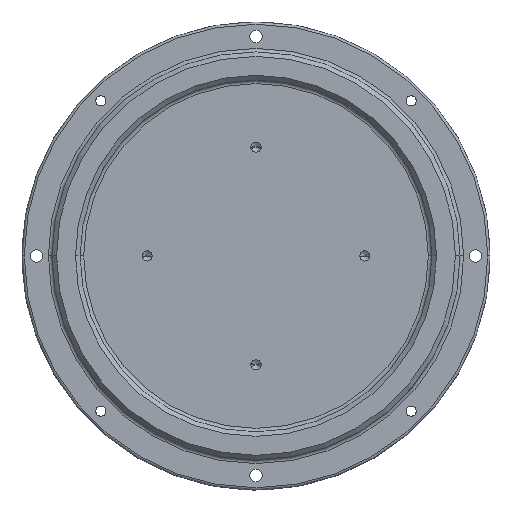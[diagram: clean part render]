
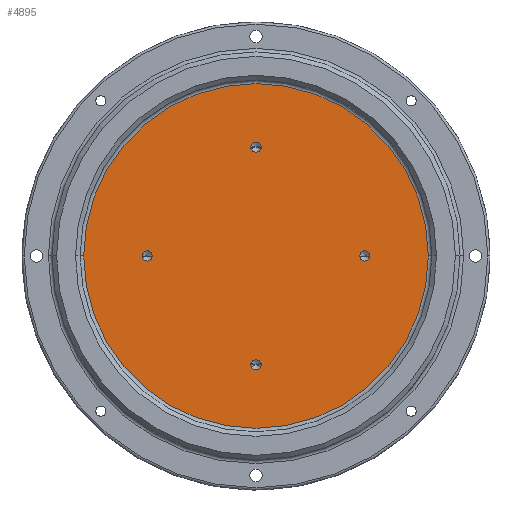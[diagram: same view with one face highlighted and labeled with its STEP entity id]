
A CAD part, top view. The second image highlights one B-rep face of the part: STEP entity #4895.
In plain terms, the highlighted planar face has unit normal (0, 0, 1).
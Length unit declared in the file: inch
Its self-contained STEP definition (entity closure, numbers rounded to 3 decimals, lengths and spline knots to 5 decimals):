
#93 = DIRECTION ( 'NONE',  ( 0., 0., 1. ) ) ;
#242 = VERTEX_POINT ( 'NONE', #6892 ) ;
#282 = CARTESIAN_POINT ( 'NONE',  ( 0., 0., 0.65 ) ) ;
#344 = CARTESIAN_POINT ( 'NONE',  ( 0.07025, -1.5, 0.65 ) ) ;
#438 = FACE_OUTER_BOUND ( 'NONE', #7875, .T. ) ;
#530 = ORIENTED_EDGE ( 'NONE', *, *, #2406, .F. ) ;
#536 = PLANE ( 'NONE',  #8569 ) ;
#667 = ORIENTED_EDGE ( 'NONE', *, *, #4321, .F. ) ;
#829 = CIRCLE ( 'NONE', #6559, 0.07025 ) ;
#891 = EDGE_LOOP ( 'NONE', ( #7507, #7856 ) ) ;
#897 = CARTESIAN_POINT ( 'NONE',  ( -1.5, 0., 0.65 ) ) ;
#899 = DIRECTION ( 'NONE',  ( 0., 0., 1. ) ) ;
#1058 = VERTEX_POINT ( 'NONE', #9163 ) ;
#1206 = EDGE_LOOP ( 'NONE', ( #4650, #530 ) ) ;
#1280 = DIRECTION ( 'NONE',  ( 1., 0., 0. ) ) ;
#1366 = VERTEX_POINT ( 'NONE', #1526 ) ;
#1526 = CARTESIAN_POINT ( 'NONE',  ( 1.57025, 0., 0.65 ) ) ;
#1801 = DIRECTION ( 'NONE',  ( 0., 0., 1. ) ) ;
#1803 = AXIS2_PLACEMENT_3D ( 'NONE', #5071, #4928, #8145 ) ;
#1813 = DIRECTION ( 'NONE',  ( 1., 0., 0. ) ) ;
#2073 = VERTEX_POINT ( 'NONE', #5622 ) ;
#2097 = CARTESIAN_POINT ( 'NONE',  ( 0.07025, 1.5, 0.65 ) ) ;
#2406 = EDGE_CURVE ( 'NONE', #242, #4350, #6454, .T. ) ;
#2461 = AXIS2_PLACEMENT_3D ( 'NONE', #5869, #4235, #8075 ) ;
#2518 = CIRCLE ( 'NONE', #5123, 0.07025 ) ;
#2623 = CARTESIAN_POINT ( 'NONE',  ( 0., 1.5, 0.65 ) ) ;
#2815 = ORIENTED_EDGE ( 'NONE', *, *, #3461, .F. ) ;
#3099 = ORIENTED_EDGE ( 'NONE', *, *, #4322, .T. ) ;
#3239 = ORIENTED_EDGE ( 'NONE', *, *, #8380, .F. ) ;
#3406 = DIRECTION ( 'NONE',  ( 0., 0., 1. ) ) ;
#3416 = CARTESIAN_POINT ( 'NONE',  ( 0., -1.5, 0.65 ) ) ;
#3461 = EDGE_CURVE ( 'NONE', #1058, #1366, #2518, .T. ) ;
#3563 = AXIS2_PLACEMENT_3D ( 'NONE', #282, #3406, #4263 ) ;
#3595 = DIRECTION ( 'NONE',  ( 0., 0., 1. ) ) ;
#3661 = FACE_BOUND ( 'NONE', #1206, .T. ) ;
#3740 = EDGE_LOOP ( 'NONE', ( #8525, #667 ) ) ;
#3789 = AXIS2_PLACEMENT_3D ( 'NONE', #6718, #9837, #9064 ) ;
#3838 = EDGE_CURVE ( 'NONE', #5851, #9250, #7743, .T. ) ;
#4157 = CIRCLE ( 'NONE', #6097, 0.07025 ) ;
#4235 = DIRECTION ( 'NONE',  ( 0., 0., 1. ) ) ;
#4256 = DIRECTION ( 'NONE',  ( 1., 0., 0. ) ) ;
#4263 = DIRECTION ( 'NONE',  ( 1., 0., 0. ) ) ;
#4321 = EDGE_CURVE ( 'NONE', #9250, #5851, #9167, .T. ) ;
#4322 = EDGE_CURVE ( 'NONE', #7692, #9629, #4772, .T. ) ;
#4328 = DIRECTION ( 'NONE',  ( 0., 0., 1. ) ) ;
#4350 = VERTEX_POINT ( 'NONE', #2097 ) ;
#4363 = CARTESIAN_POINT ( 'NONE',  ( 0., -1.5, 0.65 ) ) ;
#4424 = FACE_BOUND ( 'NONE', #4896, .T. ) ;
#4650 = ORIENTED_EDGE ( 'NONE', *, *, #8430, .F. ) ;
#4772 = CIRCLE ( 'NONE', #3789, 2.375 ) ;
#4895 = ADVANCED_FACE ( 'NONE', ( #6734, #9124, #4424, #3661, #438 ), #536, .T. ) ;
#4896 = EDGE_LOOP ( 'NONE', ( #3239, #2815 ) ) ;
#4928 = DIRECTION ( 'NONE',  ( 0., 0., 1. ) ) ;
#5071 = CARTESIAN_POINT ( 'NONE',  ( 1.5, 0., 0.65 ) ) ;
#5123 = AXIS2_PLACEMENT_3D ( 'NONE', #9441, #1801, #6264 ) ;
#5238 = DIRECTION ( 'NONE',  ( 1., 0., 0. ) ) ;
#5434 = ORIENTED_EDGE ( 'NONE', *, *, #5455, .T. ) ;
#5455 = EDGE_CURVE ( 'NONE', #9629, #7692, #6171, .T. ) ;
#5565 = DIRECTION ( 'NONE',  ( 0., 0., 1. ) ) ;
#5622 = CARTESIAN_POINT ( 'NONE',  ( -1.42975, 0., 0.65 ) ) ;
#5645 = AXIS2_PLACEMENT_3D ( 'NONE', #7147, #899, #1813 ) ;
#5718 = VERTEX_POINT ( 'NONE', #9241 ) ;
#5851 = VERTEX_POINT ( 'NONE', #344 ) ;
#5869 = CARTESIAN_POINT ( 'NONE',  ( -1.5, 0., 0.65 ) ) ;
#6085 = EDGE_CURVE ( 'NONE', #2073, #5718, #4157, .T. ) ;
#6097 = AXIS2_PLACEMENT_3D ( 'NONE', #897, #5565, #9598 ) ;
#6171 = CIRCLE ( 'NONE', #3563, 2.375 ) ;
#6264 = DIRECTION ( 'NONE',  ( 1., 0., 0. ) ) ;
#6454 = CIRCLE ( 'NONE', #5645, 0.07025 ) ;
#6540 = DIRECTION ( 'NONE',  ( 1., 0., 0. ) ) ;
#6559 = AXIS2_PLACEMENT_3D ( 'NONE', #2623, #7377, #4256 ) ;
#6718 = CARTESIAN_POINT ( 'NONE',  ( 0., 0., 0.65 ) ) ;
#6734 = FACE_BOUND ( 'NONE', #891, .T. ) ;
#6887 = CARTESIAN_POINT ( 'NONE',  ( -0.07025, -1.5, 0.65 ) ) ;
#6889 = AXIS2_PLACEMENT_3D ( 'NONE', #4363, #3595, #1280 ) ;
#6892 = CARTESIAN_POINT ( 'NONE',  ( -0.07025, 1.5, 0.65 ) ) ;
#7040 = CIRCLE ( 'NONE', #1803, 0.07025 ) ;
#7139 = EDGE_CURVE ( 'NONE', #5718, #2073, #7853, .T. ) ;
#7147 = CARTESIAN_POINT ( 'NONE',  ( 0., 1.5, 0.65 ) ) ;
#7377 = DIRECTION ( 'NONE',  ( 0., 0., 1. ) ) ;
#7495 = CARTESIAN_POINT ( 'NONE',  ( -2.375, 0., 0.65 ) ) ;
#7507 = ORIENTED_EDGE ( 'NONE', *, *, #6085, .F. ) ;
#7600 = CARTESIAN_POINT ( 'NONE',  ( -2.425, 0., 0.65 ) ) ;
#7692 = VERTEX_POINT ( 'NONE', #7713 ) ;
#7713 = CARTESIAN_POINT ( 'NONE',  ( 2.375, 0., 0.65 ) ) ;
#7743 = CIRCLE ( 'NONE', #8553, 0.07025 ) ;
#7853 = CIRCLE ( 'NONE', #2461, 0.07025 ) ;
#7856 = ORIENTED_EDGE ( 'NONE', *, *, #7139, .F. ) ;
#7875 = EDGE_LOOP ( 'NONE', ( #3099, #5434 ) ) ;
#8075 = DIRECTION ( 'NONE',  ( 1., 0., 0. ) ) ;
#8145 = DIRECTION ( 'NONE',  ( 1., 0., 0. ) ) ;
#8380 = EDGE_CURVE ( 'NONE', #1366, #1058, #7040, .T. ) ;
#8430 = EDGE_CURVE ( 'NONE', #4350, #242, #829, .T. ) ;
#8525 = ORIENTED_EDGE ( 'NONE', *, *, #3838, .F. ) ;
#8553 = AXIS2_PLACEMENT_3D ( 'NONE', #3416, #93, #6540 ) ;
#8569 = AXIS2_PLACEMENT_3D ( 'NONE', #7600, #4328, #5238 ) ;
#9064 = DIRECTION ( 'NONE',  ( 1., 0., 0. ) ) ;
#9124 = FACE_BOUND ( 'NONE', #3740, .T. ) ;
#9163 = CARTESIAN_POINT ( 'NONE',  ( 1.42975, 0., 0.65 ) ) ;
#9167 = CIRCLE ( 'NONE', #6889, 0.07025 ) ;
#9241 = CARTESIAN_POINT ( 'NONE',  ( -1.57025, 0., 0.65 ) ) ;
#9250 = VERTEX_POINT ( 'NONE', #6887 ) ;
#9441 = CARTESIAN_POINT ( 'NONE',  ( 1.5, 0., 0.65 ) ) ;
#9598 = DIRECTION ( 'NONE',  ( 1., 0., 0. ) ) ;
#9629 = VERTEX_POINT ( 'NONE', #7495 ) ;
#9837 = DIRECTION ( 'NONE',  ( 0., 0., 1. ) ) ;
